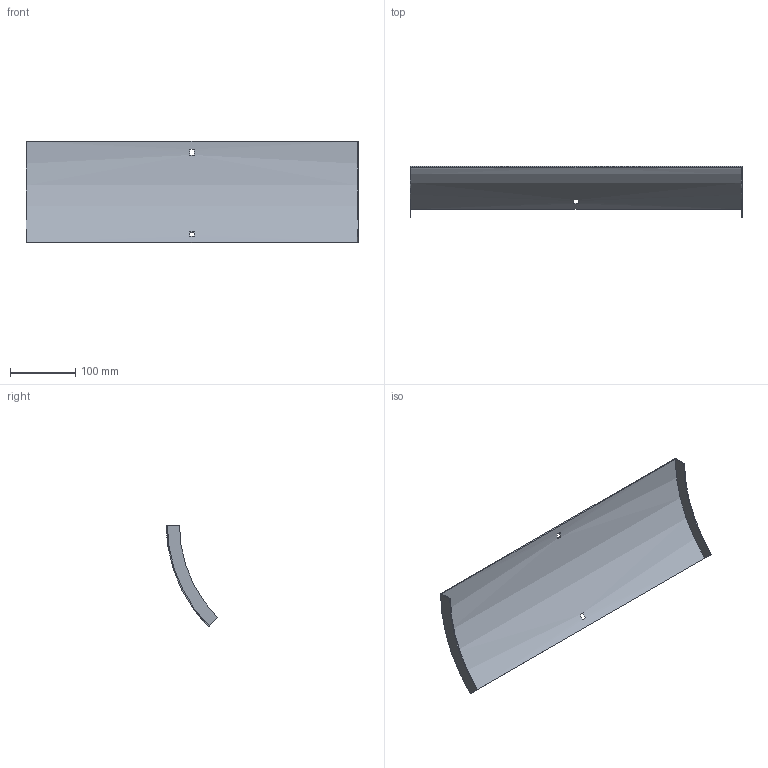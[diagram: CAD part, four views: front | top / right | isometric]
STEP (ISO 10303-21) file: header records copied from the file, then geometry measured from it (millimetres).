
FILE_DESCRIPTION (( 'STEP AP214' ), '1' );
FILE_NAME ('34N1J500.step', '2025-02-21T09:14:32', ( '' ), ( '' ), 'SwSTEP 2.0', 'SolidWorks 2023', '' );
FILE_SCHEMA (( 'AUTOMOTIVE_DESIGN' ));
Length unit declared in the file: millimetre
Products named in the file (1): 34N1J500
Bounding box: 507 x 78.29 x 154.86 mm (x, y, z)
Volume: 139261.2 mm3; surface area: 187877.6 mm2
Topology: 1 solids, 1 shells, 18 faces, 48 edges, 32 vertices
Faces by surface type: plane 14, cylinder 4
Entity records: 599 total; most frequent: DIRECTION 102, CARTESIAN_POINT 99, ORIENTED_EDGE 96, EDGE_CURVE 48, AXIS2_PLACEMENT_3D 35, VECTOR 32, VERTEX_POINT 32, LINE 32
